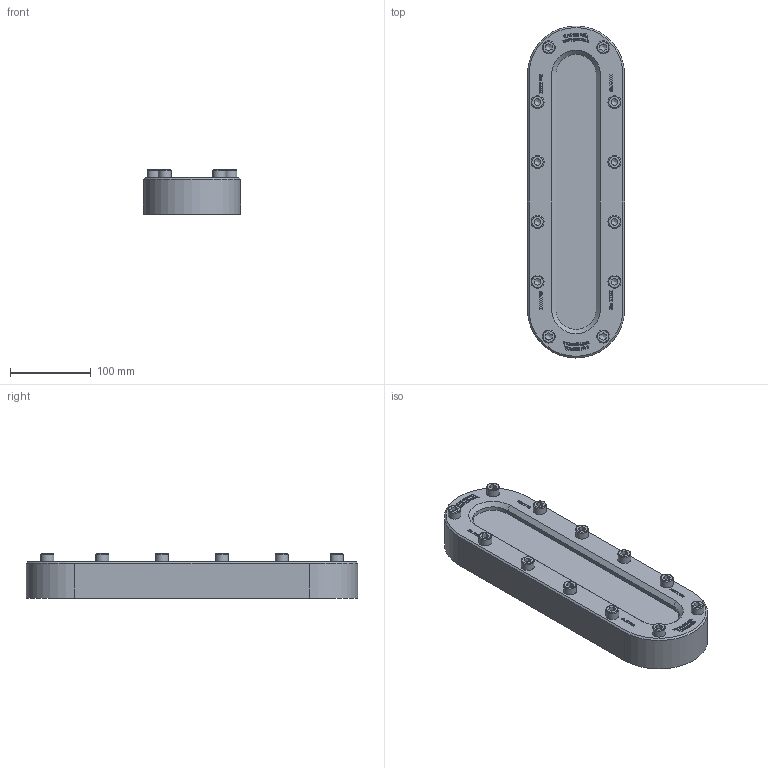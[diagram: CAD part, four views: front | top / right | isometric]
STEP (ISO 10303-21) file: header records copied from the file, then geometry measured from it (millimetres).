
FILE_DESCRIPTION(/* description */ (''),/* implementation_level */ '2;1');
FILE_NAME(/* name */ 'W:\Konstruktion_ACI\335\_Zeichnungen\STEP\ACI-335-410.stp',/* time_stamp */ '2022-03-01T17:50:26+01:00',/* author */ ('koslowksi'),/* organization */ ('ACI Industriearmaturen'),/* preprocessor_version */ 'ST-DEVELOPER v16.1',/* originating_system */ 'Autodesk Inventor 2016',/* authorisation */ '');
FILE_SCHEMA (('AUTOMOTIVE_DESIGN { 1 0 10303 214 3 1 1 }'));
Length unit declared in the file: centimetre
Products named in the file (1): ACI-335-410.stp
Bounding box: 120 x 410 x 54.9 mm (x, y, z)
Volume: 1605772.8 mm3; surface area: 162089.6 mm2
Topology: 1 solids, 1 shells, 1388 faces, 3808 edges, 2532 vertices
Faces by surface type: plane 918, bspline 424, cylinder 18, cone 16, torus 12
Full cylindrical faces by diameter (mm): 16 x12
Entity records: 46604 total; most frequent: CARTESIAN_POINT 13301, ORIENTED_EDGE 7496, DIRECTION 4810, EDGE_CURVE 3748, LINE 2776, VECTOR 2776, VERTEX_POINT 2508, EDGE_LOOP 1534
